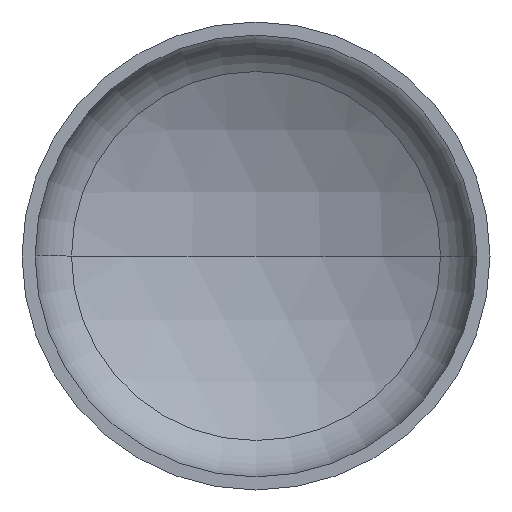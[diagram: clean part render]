
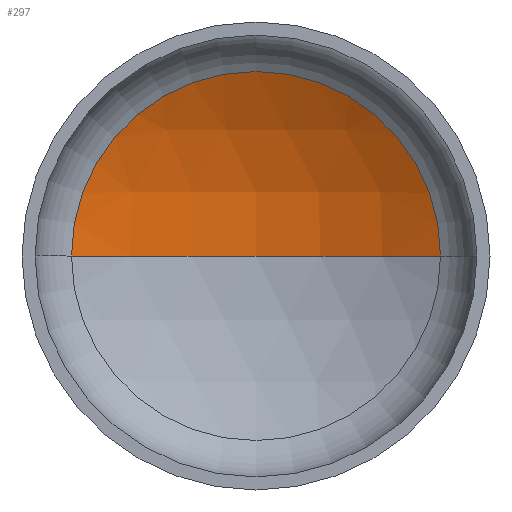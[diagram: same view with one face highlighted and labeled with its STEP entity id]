
A CAD part, front view. The second image highlights one B-rep face of the part: STEP entity #297.
In plain terms, the highlighted spherical face has radius 2400 mm.
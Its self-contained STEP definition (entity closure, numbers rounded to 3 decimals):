
#7 = CARTESIAN_POINT ( 'NONE',  ( 0., 500.27, 0. ) ) ;
#9 = EDGE_LOOP ( 'NONE', ( #28, #79, #11 ) ) ;
#11 = ORIENTED_EDGE ( 'NONE', *, *, #108, .T. ) ;
#14 = AXIS2_PLACEMENT_3D ( 'NONE', #183, #380, #118 ) ;
#28 = ORIENTED_EDGE ( 'NONE', *, *, #167, .F. ) ;
#31 = AXIS2_PLACEMENT_3D ( 'NONE', #284, #283, #249 ) ;
#34 = AXIS2_PLACEMENT_3D ( 'NONE', #185, #206, #207 ) ;
#35 = AXIS2_PLACEMENT_3D ( 'NONE', #7, #164, #238 ) ;
#45 = VERTEX_POINT ( 'NONE', #258 ) ;
#79 = ORIENTED_EDGE ( 'NONE', *, *, #147, .T. ) ;
#106 = VERTEX_POINT ( 'NONE', #326 ) ;
#108 = EDGE_CURVE ( 'NONE', #144, #106, #254, .T. ) ;
#118 = DIRECTION ( 'NONE',  ( -1., 0., 0. ) ) ;
#144 = VERTEX_POINT ( 'NONE', #193 ) ;
#147 = EDGE_CURVE ( 'NONE', #45, #144, #189, .T. ) ;
#164 = DIRECTION ( 'NONE',  ( 0., -1., 0. ) ) ;
#165 = SPHERICAL_SURFACE ( 'NONE', #14, 2400. ) ;
#167 = EDGE_CURVE ( 'NONE', #45, #106, #180, .T. ) ;
#180 = CIRCLE ( 'NONE', #31, 2400. ) ;
#183 = CARTESIAN_POINT ( 'NONE',  ( 0., -1588.095, 0. ) ) ;
#185 = CARTESIAN_POINT ( 'NONE',  ( 0., -1588.095, 0. ) ) ;
#189 = CIRCLE ( 'NONE', #34, 2400. ) ;
#193 = CARTESIAN_POINT ( 'NONE',  ( 1182.68, 500.27, 0. ) ) ;
#206 = DIRECTION ( 'NONE',  ( 0., 0., -1. ) ) ;
#207 = DIRECTION ( 'NONE',  ( -1., 0., 0. ) ) ;
#238 = DIRECTION ( 'NONE',  ( 1., 0., 0. ) ) ;
#249 = DIRECTION ( 'NONE',  ( 1., 0., 0. ) ) ;
#254 = CIRCLE ( 'NONE', #35, 1182.68 ) ;
#258 = CARTESIAN_POINT ( 'NONE',  ( 0., 811.905, 0. ) ) ;
#282 = FACE_OUTER_BOUND ( 'NONE', #9, .T. ) ;
#283 = DIRECTION ( 'NONE',  ( 0., 0., 1. ) ) ;
#284 = CARTESIAN_POINT ( 'NONE',  ( 0., -1588.095, 0. ) ) ;
#297 = ADVANCED_FACE ( 'NONE', ( #282 ), #165, .F. ) ;
#326 = CARTESIAN_POINT ( 'NONE',  ( -1182.68, 500.27, 0. ) ) ;
#380 = DIRECTION ( 'NONE',  ( 0., 0., -1. ) ) ;
